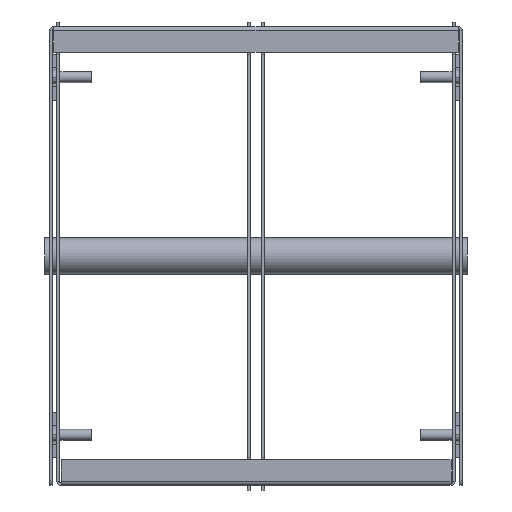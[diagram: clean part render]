
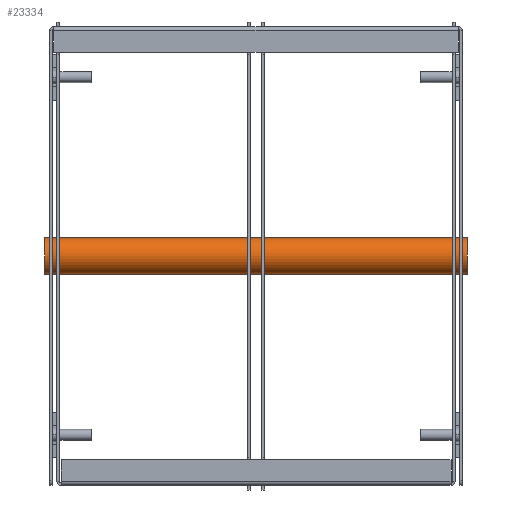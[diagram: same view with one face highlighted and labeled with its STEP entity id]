
A CAD part, front view. The second image highlights one B-rep face of the part: STEP entity #23334.
In plain terms, the highlighted cylindrical face has radius 20 mm (diameter 40 mm), a partial arc.
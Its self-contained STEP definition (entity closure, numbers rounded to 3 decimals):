
#2596 = ORIENTED_EDGE ( 'NONE', *, *, #3454, .F. ) ;
#2597 = ORIENTED_EDGE ( 'NONE', *, *, #3461, .F. ) ;
#2598 = ORIENTED_EDGE ( 'NONE', *, *, #3459, .T. ) ;
#2599 = ORIENTED_EDGE ( 'NONE', *, *, #3466, .T. ) ;
#3454 = EDGE_CURVE ( 'NONE', #4758, #4760, #9358, .T. ) ;
#3459 = EDGE_CURVE ( 'NONE', #4759, #4761, #9361, .T. ) ;
#3461 = EDGE_CURVE ( 'NONE', #4759, #4758, #9364, .T. ) ;
#3466 = EDGE_CURVE ( 'NONE', #4761, #4760, #9366, .T. ) ;
#4758 = VERTEX_POINT ( 'NONE', #13459 ) ;
#4759 = VERTEX_POINT ( 'NONE', #13460 ) ;
#4760 = VERTEX_POINT ( 'NONE', #13461 ) ;
#4761 = VERTEX_POINT ( 'NONE', #13462 ) ;
#7825 = AXIS2_PLACEMENT_3D ( 'NONE', #10364, #10365, #10366 ) ;
#7827 = AXIS2_PLACEMENT_3D ( 'NONE', #10373, #10374, #10375 ) ;
#9358 = LINE ( 'NONE', #10353, #9360 ) ;
#9360 = VECTOR ( 'NONE', #10354, 1000. ) ;
#9361 = LINE ( 'NONE', #10361, #9363 ) ;
#9363 = VECTOR ( 'NONE', #10362, 1000. ) ;
#9364 = CIRCLE ( 'NONE', #7825, 20. ) ;
#9366 = CIRCLE ( 'NONE', #7827, 20. ) ;
#10353 = CARTESIAN_POINT ( 'NONE',  ( 216.021, 30., -262.5 ) ) ;
#10354 = DIRECTION ( 'NONE',  ( -1., 0., 0. ) ) ;
#10361 = CARTESIAN_POINT ( 'NONE',  ( 216.021, 30., -222.5 ) ) ;
#10362 = DIRECTION ( 'NONE',  ( -1., 0., 0. ) ) ;
#10364 = CARTESIAN_POINT ( 'NONE',  ( 216.021, 30., -242.5 ) ) ;
#10365 = DIRECTION ( 'NONE',  ( 1., 0., 0. ) ) ;
#10366 = DIRECTION ( 'NONE',  ( 0., 0., -1. ) ) ;
#10373 = CARTESIAN_POINT ( 'NONE',  ( -243.979, 30., -242.5 ) ) ;
#10374 = DIRECTION ( 'NONE',  ( 1., 0., 0. ) ) ;
#10375 = DIRECTION ( 'NONE',  ( 0., 0., -1. ) ) ;
#13459 = CARTESIAN_POINT ( 'NONE',  ( 216.021, 30., -262.5 ) ) ;
#13460 = CARTESIAN_POINT ( 'NONE',  ( 216.021, 30., -222.5 ) ) ;
#13461 = CARTESIAN_POINT ( 'NONE',  ( -243.979, 30., -262.5 ) ) ;
#13462 = CARTESIAN_POINT ( 'NONE',  ( -243.979, 30., -222.5 ) ) ;
#18720 = FACE_OUTER_BOUND ( 'NONE', #21359, .T. ) ;
#18721 = CYLINDRICAL_SURFACE ( 'NONE', #19446, 20. ) ;
#19446 = AXIS2_PLACEMENT_3D ( 'NONE', #20110, #20111, #20112 ) ;
#20110 = CARTESIAN_POINT ( 'NONE',  ( 216.021, 30., -242.5 ) ) ;
#20111 = DIRECTION ( 'NONE',  ( -1., 0., 0. ) ) ;
#20112 = DIRECTION ( 'NONE',  ( 0., 0., 1. ) ) ;
#21359 = EDGE_LOOP ( 'NONE', ( #2596, #2597, #2598, #2599 ) ) ;
#23334 = ADVANCED_FACE ( 'NONE', ( #18720 ), #18721, .T. ) ;
